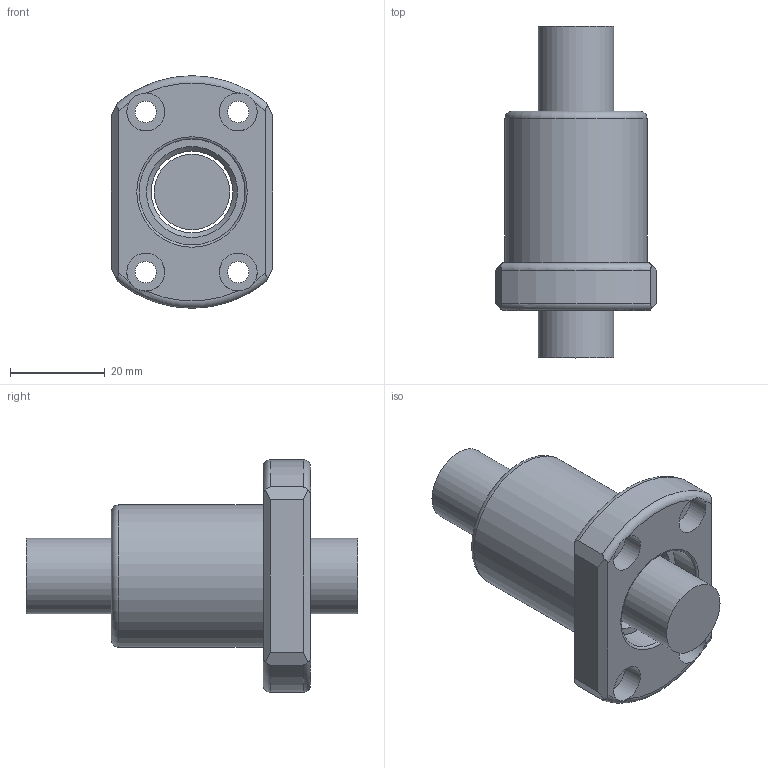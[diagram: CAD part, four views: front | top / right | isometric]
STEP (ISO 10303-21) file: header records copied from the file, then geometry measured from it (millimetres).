
FILE_DESCRIPTION(/* description */ (''),/* implementation_level */ '2;1');
FILE_NAME(/* name */ '1605T3D.prt.step',/* time_stamp */ '2008-12-05T09:33:00+08:00',/* author */ (''),/* organization */ (''),/* preprocessor_version */ 'ST-DEVELOPER v11',/* originating_system */ 'SIEMENS UGS NX 6.0',/* authorisation */ '');
FILE_SCHEMA (('AUTOMOTIVE_DESIGN { 1 0 10303 214 1 1 1 1 }'));
Length unit declared in the file: millimetre
Products named in the file (1): 1605T3D
Bounding box: 34 x 70 x 49 mm (x, y, z)
Volume: 38371.4 mm3; surface area: 13680.8 mm2
Topology: 2 solids, 2 shells, 45 faces, 116 edges, 78 vertices
Faces by surface type: plane 21, cylinder 15, torus 7, cone 2
Full cylindrical faces by diameter (mm): 4.5 x4, 8 x4, 15.95 x1, 17.2 x1, 22.3 x2, 30 x1
Entity records: 1474 total; most frequent: CARTESIAN_POINT 464, DIRECTION 202, ORIENTED_EDGE 174, AXIS2_PLACEMENT_3D 89, EDGE_CURVE 87, EDGE_LOOP 76, VERTEX_POINT 67, FACE_BOUND 58
